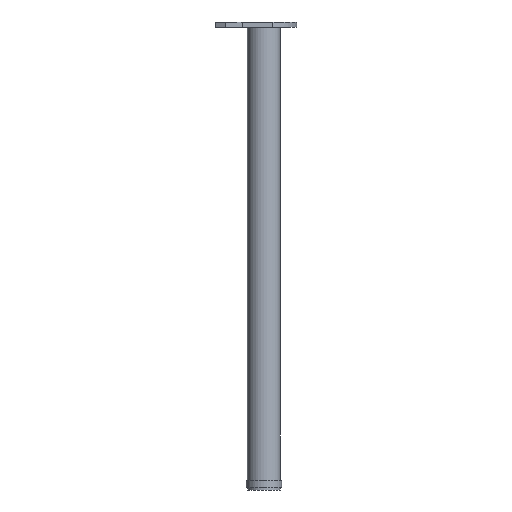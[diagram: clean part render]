
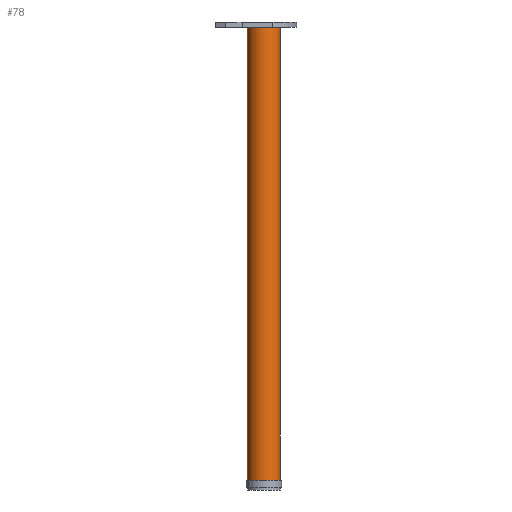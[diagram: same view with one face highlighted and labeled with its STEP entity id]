
A CAD part, left-side view. The second image highlights one B-rep face of the part: STEP entity #78.
In plain terms, the highlighted cylindrical face has radius 25 mm (diameter 50 mm), a full revolution.
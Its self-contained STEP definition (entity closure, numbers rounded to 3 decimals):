
#78 = ADVANCED_FACE( '', ( #202, #203 ), #204, .T. );
#202 = FACE_OUTER_BOUND( '', #379, .T. );
#203 = FACE_OUTER_BOUND( '', #380, .T. );
#204 = CYLINDRICAL_SURFACE( '', #381, 25. );
#379 = EDGE_LOOP( '', ( #592 ) );
#380 = EDGE_LOOP( '', ( #593 ) );
#381 = AXIS2_PLACEMENT_3D( '', #594, #595, #596 );
#592 = ORIENTED_EDGE( '', *, *, #914, .T. );
#593 = ORIENTED_EDGE( '', *, *, #960, .T. );
#594 = CARTESIAN_POINT( '', ( 0., 0., 1000. ) );
#595 = DIRECTION( '', ( 0., 0., -1. ) );
#596 = DIRECTION( '', ( 1., 0., 0. ) );
#914 = EDGE_CURVE( '', #1068, #1068, #1069, .F. );
#960 = EDGE_CURVE( '', #1153, #1153, #1154, .T. );
#1068 = VERTEX_POINT( '', #1300 );
#1069 = CIRCLE( '', #1301, 25. );
#1153 = VERTEX_POINT( '', #1408 );
#1154 = CIRCLE( '', #1409, 25. );
#1300 = CARTESIAN_POINT( '', ( 25., 0., -8. ) );
#1301 = AXIS2_PLACEMENT_3D( '', #1584, #1585, #1586 );
#1408 = CARTESIAN_POINT( '', ( 25., 0., -694.95 ) );
#1409 = AXIS2_PLACEMENT_3D( '', #1664, #1665, #1666 );
#1584 = CARTESIAN_POINT( '', ( 0., 0., -8. ) );
#1585 = DIRECTION( '', ( 0., 0., 1. ) );
#1586 = DIRECTION( '', ( 1., 0., 0. ) );
#1664 = CARTESIAN_POINT( '', ( 0., 0., -694.95 ) );
#1665 = DIRECTION( '', ( 0., 0., 1. ) );
#1666 = DIRECTION( '', ( 1., 0., 0. ) );
